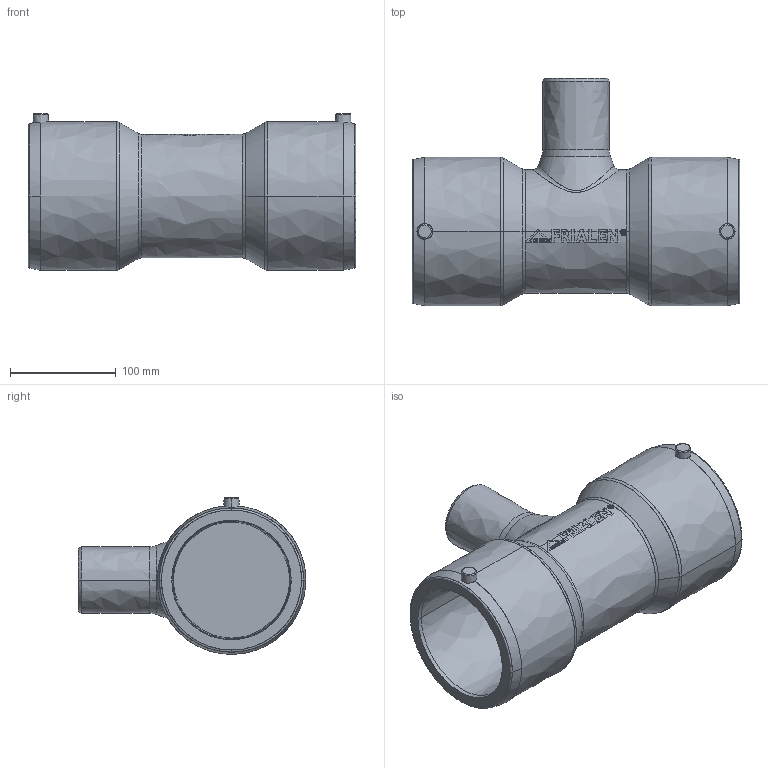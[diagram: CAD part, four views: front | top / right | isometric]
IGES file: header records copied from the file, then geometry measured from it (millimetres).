
Start section:  PTC IGES file: ta-red_d110_d63_01.igs
Global section: file name: ta-red_d110_d63_01.igs; native system: Creo Parametric by PTC Inc.; preprocessor: 2019030; author: mikulicp; organization: Unknown; date: 20210112.135743; units: millimetre
Bounding box: 310 x 215.25 x 148.12 mm (x, y, z)
Surface area: 238096.8 mm2 (no closed solid volume)
Topology: 0 solids, 0 shells, 279 faces, 1474 edges, 1474 vertices
Faces by surface type: bspline 279
